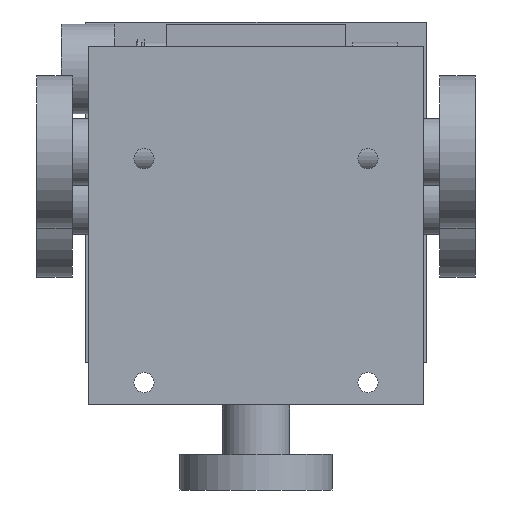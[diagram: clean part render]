
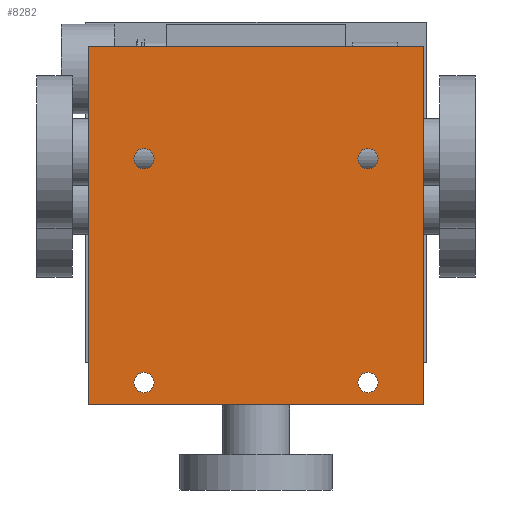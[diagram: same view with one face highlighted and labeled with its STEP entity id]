
A CAD part, front view. The second image highlights one B-rep face of the part: STEP entity #8282.
In plain terms, the highlighted planar face has unit normal (0, -1, 0).
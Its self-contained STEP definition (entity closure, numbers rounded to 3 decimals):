
#3392 = CARTESIAN_POINT ( 'NONE',  ( 25., 0., 27.25 ) ) ;
#3393 = CARTESIAN_POINT ( 'NONE',  ( 25., 0., 22.75 ) ) ;
#3394 = DIRECTION ( 'NONE',  ( 0., 0., 1. ) ) ;
#3395 = DIRECTION ( 'NONE',  ( 0., 1., 0. ) ) ;
#3396 = AXIS2_PLACEMENT_3D ( 'NONE', #3402, #3395, #3394 ) ;
#3397 = CIRCLE ( 'NONE', #3396, 2.25 ) ;
#3402 = CARTESIAN_POINT ( 'NONE',  ( 25., 0., 25. ) ) ;
#3453 = CIRCLE ( 'NONE', #3512, 2.25 ) ;
#3507 = CARTESIAN_POINT ( 'NONE',  ( -25., 0., 27.25 ) ) ;
#3508 = CARTESIAN_POINT ( 'NONE',  ( -25., 0., 22.75 ) ) ;
#3509 = DIRECTION ( 'NONE',  ( 0., 0., 1. ) ) ;
#3510 = DIRECTION ( 'NONE',  ( 0., 1., 0. ) ) ;
#3511 = CARTESIAN_POINT ( 'NONE',  ( -25., 0., 25. ) ) ;
#3512 = AXIS2_PLACEMENT_3D ( 'NONE', #3511, #3510, #3509 ) ;
#3518 = CARTESIAN_POINT ( 'NONE',  ( 25., 0., -22.75 ) ) ;
#3519 = CARTESIAN_POINT ( 'NONE',  ( 25., 0., -27.25 ) ) ;
#3520 = DIRECTION ( 'NONE',  ( 0., 0., 1. ) ) ;
#3521 = DIRECTION ( 'NONE',  ( 0., 1., 0. ) ) ;
#3522 = CARTESIAN_POINT ( 'NONE',  ( 25., 0., -25. ) ) ;
#3523 = AXIS2_PLACEMENT_3D ( 'NONE', #3522, #3521, #3520 ) ;
#3528 = CIRCLE ( 'NONE', #3523, 2.25 ) ;
#3642 = CARTESIAN_POINT ( 'NONE',  ( -25., 0., -22.75 ) ) ;
#3643 = CARTESIAN_POINT ( 'NONE',  ( -25., 0., -27.25 ) ) ;
#3644 = DIRECTION ( 'NONE',  ( 0., 0., 1. ) ) ;
#3645 = DIRECTION ( 'NONE',  ( 0., 1., 0. ) ) ;
#3646 = AXIS2_PLACEMENT_3D ( 'NONE', #3653, #3645, #3644 ) ;
#3647 = CIRCLE ( 'NONE', #3646, 2.25 ) ;
#3653 = CARTESIAN_POINT ( 'NONE',  ( -25., 0., -25. ) ) ;
#3687 = CARTESIAN_POINT ( 'NONE',  ( 37.5, 0., -30. ) ) ;
#3688 = DIRECTION ( 'NONE',  ( 0., 0., -1. ) ) ;
#3689 = VECTOR ( 'NONE', #3688, 1000. ) ;
#3690 = CARTESIAN_POINT ( 'NONE',  ( 37.5, 0., 50. ) ) ;
#3691 = LINE ( 'NONE', #3690, #3689 ) ;
#3706 = CARTESIAN_POINT ( 'NONE',  ( 37.5, 0., 50. ) ) ;
#3786 = CARTESIAN_POINT ( 'NONE',  ( -37.5, 0., 50. ) ) ;
#3787 = DIRECTION ( 'NONE',  ( 0., 0., -1. ) ) ;
#3788 = VECTOR ( 'NONE', #3787, 1000. ) ;
#3789 = CARTESIAN_POINT ( 'NONE',  ( -37.5, 0., 50. ) ) ;
#3790 = LINE ( 'NONE', #3789, #3788 ) ;
#3791 = CARTESIAN_POINT ( 'NONE',  ( -37.5, 0., -30. ) ) ;
#3798 = CARTESIAN_POINT ( 'NONE',  ( -25., 0., 25. ) ) ;
#3837 = DIRECTION ( 'NONE',  ( 0., 0., 1. ) ) ;
#3838 = DIRECTION ( 'NONE',  ( 0., 1., 0. ) ) ;
#3839 = CARTESIAN_POINT ( 'NONE',  ( 37.5, 0., 50. ) ) ;
#3840 = AXIS2_PLACEMENT_3D ( 'NONE', #3839, #3838, #3837 ) ;
#3841 = PLANE ( 'NONE',  #3840 ) ;
#3842 = FACE_OUTER_BOUND ( 'NONE', #8367, .T. ) ;
#3843 = FACE_BOUND ( 'NONE', #8294, .T. ) ;
#3844 = FACE_BOUND ( 'NONE', #8288, .T. ) ;
#3845 = FACE_BOUND ( 'NONE', #8285, .T. ) ;
#3846 = FACE_BOUND ( 'NONE', #8329, .T. ) ;
#3862 = DIRECTION ( 'NONE',  ( 0., 0., 1. ) ) ;
#3863 = DIRECTION ( 'NONE',  ( 0., 1., 0. ) ) ;
#3864 = AXIS2_PLACEMENT_3D ( 'NONE', #3798, #3863, #3862 ) ;
#3865 = CIRCLE ( 'NONE', #3864, 2.25 ) ;
#3924 = DIRECTION ( 'NONE',  ( 0., 0., 1. ) ) ;
#3925 = DIRECTION ( 'NONE',  ( 0., 1., 0. ) ) ;
#3926 = CARTESIAN_POINT ( 'NONE',  ( 25., 0., 25. ) ) ;
#3927 = AXIS2_PLACEMENT_3D ( 'NONE', #3926, #3925, #3924 ) ;
#3928 = CIRCLE ( 'NONE', #3927, 2.25 ) ;
#3941 = DIRECTION ( 'NONE',  ( 0., 0., 1. ) ) ;
#3942 = DIRECTION ( 'NONE',  ( 0., 1., 0. ) ) ;
#3943 = CARTESIAN_POINT ( 'NONE',  ( -25., 0., -25. ) ) ;
#3944 = AXIS2_PLACEMENT_3D ( 'NONE', #3943, #3942, #3941 ) ;
#3949 = CIRCLE ( 'NONE', #3944, 2.25 ) ;
#3952 = DIRECTION ( 'NONE',  ( 0., 0., 1. ) ) ;
#3953 = DIRECTION ( 'NONE',  ( 0., 1., 0. ) ) ;
#3954 = AXIS2_PLACEMENT_3D ( 'NONE', #3960, #3953, #3952 ) ;
#3955 = CIRCLE ( 'NONE', #3954, 2.25 ) ;
#3960 = CARTESIAN_POINT ( 'NONE',  ( 25., 0., -25. ) ) ;
#3961 = DIRECTION ( 'NONE',  ( -1., 0., 0. ) ) ;
#3962 = VECTOR ( 'NONE', #3961, 1000. ) ;
#3963 = CARTESIAN_POINT ( 'NONE',  ( 37.5, 0., -30. ) ) ;
#3964 = LINE ( 'NONE', #3963, #3962 ) ;
#4021 = DIRECTION ( 'NONE',  ( -1., 0., 0. ) ) ;
#4022 = VECTOR ( 'NONE', #4021, 1000. ) ;
#4023 = CARTESIAN_POINT ( 'NONE',  ( 37.5, 0., 50. ) ) ;
#4024 = LINE ( 'NONE', #4023, #4022 ) ;
#8038 = EDGE_CURVE ( 'NONE', #8039, #8040, #3397, .T. ) ;
#8039 = VERTEX_POINT ( 'NONE', #3393 ) ;
#8040 = VERTEX_POINT ( 'NONE', #3392 ) ;
#8074 = EDGE_CURVE ( 'NONE', #8075, #8076, #3453, .T. ) ;
#8075 = VERTEX_POINT ( 'NONE', #3508 ) ;
#8076 = VERTEX_POINT ( 'NONE', #3507 ) ;
#8106 = EDGE_CURVE ( 'NONE', #8107, #8108, #3528, .T. ) ;
#8107 = VERTEX_POINT ( 'NONE', #3519 ) ;
#8108 = VERTEX_POINT ( 'NONE', #3518 ) ;
#8171 = EDGE_CURVE ( 'NONE', #8172, #8173, #3647, .T. ) ;
#8172 = VERTEX_POINT ( 'NONE', #3643 ) ;
#8173 = VERTEX_POINT ( 'NONE', #3642 ) ;
#8183 = EDGE_CURVE ( 'NONE', #8209, #8184, #3691, .T. ) ;
#8184 = VERTEX_POINT ( 'NONE', #3687 ) ;
#8209 = VERTEX_POINT ( 'NONE', #3706 ) ;
#8234 = VERTEX_POINT ( 'NONE', #3791 ) ;
#8236 = EDGE_CURVE ( 'NONE', #8237, #8234, #3790, .T. ) ;
#8237 = VERTEX_POINT ( 'NONE', #3786 ) ;
#8272 = EDGE_CURVE ( 'NONE', #8076, #8075, #3865, .T. ) ;
#8282 = ADVANCED_FACE ( 'NONE', ( #3846, #3845, #3844, #3843, #3842 ), #3841, .F. ) ;
#8283 = ORIENTED_EDGE ( 'NONE', *, *, #8272, .T. ) ;
#8284 = ORIENTED_EDGE ( 'NONE', *, *, #8074, .T. ) ;
#8285 = EDGE_LOOP ( 'NONE', ( #8286, #8287 ) ) ;
#8286 = ORIENTED_EDGE ( 'NONE', *, *, #8343, .T. ) ;
#8287 = ORIENTED_EDGE ( 'NONE', *, *, #8171, .T. ) ;
#8288 = EDGE_LOOP ( 'NONE', ( #8292, #8293 ) ) ;
#8292 = ORIENTED_EDGE ( 'NONE', *, *, #8335, .T. ) ;
#8293 = ORIENTED_EDGE ( 'NONE', *, *, #8106, .T. ) ;
#8294 = EDGE_LOOP ( 'NONE', ( #8365, #8366 ) ) ;
#8314 = EDGE_CURVE ( 'NONE', #8040, #8039, #3928, .T. ) ;
#8329 = EDGE_LOOP ( 'NONE', ( #8283, #8284 ) ) ;
#8335 = EDGE_CURVE ( 'NONE', #8108, #8107, #3955, .T. ) ;
#8343 = EDGE_CURVE ( 'NONE', #8173, #8172, #3949, .T. ) ;
#8365 = ORIENTED_EDGE ( 'NONE', *, *, #8314, .T. ) ;
#8366 = ORIENTED_EDGE ( 'NONE', *, *, #8038, .T. ) ;
#8367 = EDGE_LOOP ( 'NONE', ( #8368, #8369, #8371, #8372 ) ) ;
#8368 = ORIENTED_EDGE ( 'NONE', *, *, #8236, .T. ) ;
#8369 = ORIENTED_EDGE ( 'NONE', *, *, #8370, .F. ) ;
#8370 = EDGE_CURVE ( 'NONE', #8184, #8234, #3964, .T. ) ;
#8371 = ORIENTED_EDGE ( 'NONE', *, *, #8183, .F. ) ;
#8372 = ORIENTED_EDGE ( 'NONE', *, *, #8373, .T. ) ;
#8373 = EDGE_CURVE ( 'NONE', #8209, #8237, #4024, .T. ) ;
